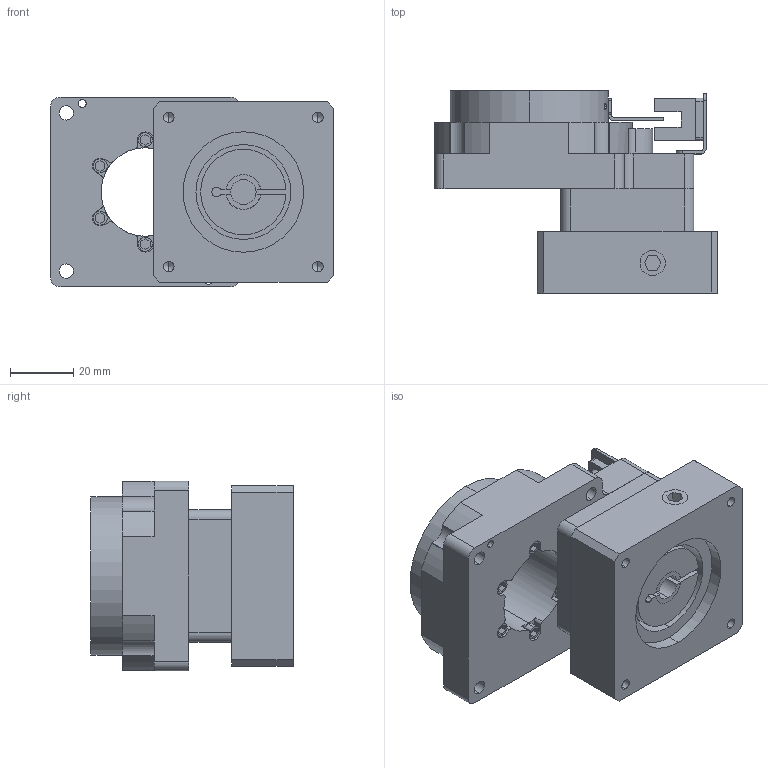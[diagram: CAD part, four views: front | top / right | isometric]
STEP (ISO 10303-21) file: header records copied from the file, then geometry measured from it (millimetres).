
FILE_DESCRIPTION(('Open CASCADE Model'),'2;1');
FILE_NAME('Open CASCADE Shape Model','2026-10-11T02:57:00',('Author'),( 'Open CASCADE'),'Open CASCADE STEP processor 7.8','Open CASCADE 7.8' ,'Unknown');
FILE_SCHEMA(('AUTOMOTIVE_DESIGN { 1 0 10303 214 1 1 1 1 }'));
Length unit declared in the file: millimetre
Products named in the file (3): NT60-10(配57步进 输入8-32 38.1-5 4-M4-47.14-47.14); NT60-10(配57步进 输入8-32 38.1-5 4-M4-47.14-47.14)-01; NT60-10(配57步进 输入8-32 38.1-5 4-M4-47.14-47.14)-02
Assembly tree (2 placements, depth 2):
  NT60-10(配57步进 输入8-32 38.1-5 4-M4-47.14-47.14)
    NT60-10(配57步进 输入8-32 38.1-5 4-M4-47.14-47.14)-01
    NT60-10(配57步进 输入8-32 38.1-5 4-M4-47.14-47.14)-02
Bounding box: 89.5 x 64 x 60 mm (x, y, z)
Volume: 158839.9 mm3; surface area: 45472.4 mm2
Topology: 6 solids, 12 shells, 1054 faces, 2876 edges, 1884 vertices
Faces by surface type: plane 812, cylinder 202, cone 40
Entity records: 69613 total; most frequent: CARTESIAN_POINT 14581, DIRECTION 9591, LINE 6506, VECTOR 6506, ORIENTED_EDGE 5672, PCURVE 5672, DEFINITIONAL_REPRESENTATION 5672, EDGE_CURVE 2836
